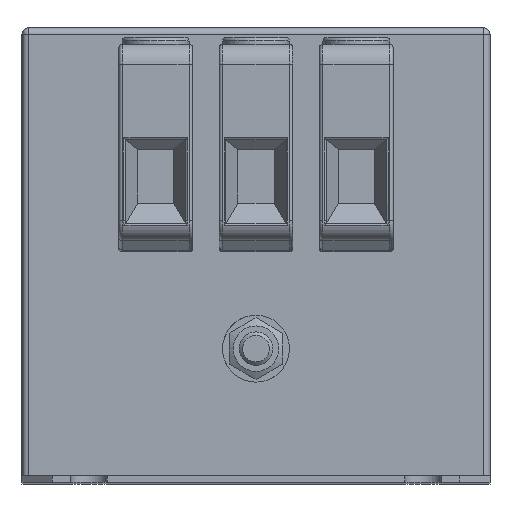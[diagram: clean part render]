
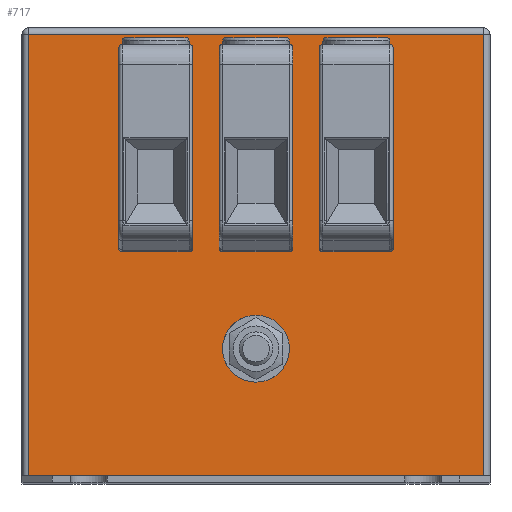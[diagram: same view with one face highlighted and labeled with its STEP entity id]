
A CAD part, top view. The second image highlights one B-rep face of the part: STEP entity #717.
In plain terms, the highlighted planar face has unit normal (0, 0, 1).
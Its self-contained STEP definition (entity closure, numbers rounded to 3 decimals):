
#101=CARTESIAN_POINT('',(4.25,-14.0,65.0));
#102=VERTEX_POINT('',#101);
#103=CARTESIAN_POINT('',(0.,-14.0,65.0));
#104=DIRECTION('',(0.0,0.0,-1.0));
#105=DIRECTION('',(1.0,0.0,0.0));
#106=AXIS2_PLACEMENT_3D('',#103,#104,#105);
#107=CIRCLE('',#106,4.25);
#108=EDGE_CURVE('',#102,#102,#107,.T.);
#573=CARTESIAN_POINT('',(0.,0.,65.0));
#574=DIRECTION('',(0.0,0.0,1.0));
#575=DIRECTION('',(1.0,0.0,0.0));
#576=AXIS2_PLACEMENT_3D('',#573,#574,#575);
#577=PLANE('',#576);
#578=CARTESIAN_POINT('',(-34.,-33.,65.0));
#579=VERTEX_POINT('',#578);
#580=CARTESIAN_POINT('',(-34.,33.0,65.0));
#581=VERTEX_POINT('',#580);
#582=CARTESIAN_POINT('',(-34.,-33.,65.0));
#583=DIRECTION('',(0.0,1.0,0.0));
#584=VECTOR('',#583,66.0);
#585=LINE('',#582,#584);
#586=EDGE_CURVE('',#579,#581,#585,.T.);
#587=ORIENTED_EDGE('',*,*,#586,.F.);
#588=CARTESIAN_POINT('',(34.0,-33.,65.0));
#589=VERTEX_POINT('',#588);
#590=CARTESIAN_POINT('',(-34.,-33.,65.0));
#591=DIRECTION('',(1.0,0.0,0.0));
#592=VECTOR('',#591,68.);
#593=LINE('',#590,#592);
#594=EDGE_CURVE('',#579,#589,#593,.T.);
#595=ORIENTED_EDGE('',*,*,#594,.T.);
#596=CARTESIAN_POINT('',(34.,33.,65.0));
#597=VERTEX_POINT('',#596);
#598=CARTESIAN_POINT('',(34.0,33.,65.0));
#599=DIRECTION('',(0.0,-1.0,0.0));
#600=VECTOR('',#599,66.0);
#601=LINE('',#598,#600);
#602=EDGE_CURVE('',#597,#589,#601,.T.);
#603=ORIENTED_EDGE('',*,*,#602,.F.);
#604=CARTESIAN_POINT('',(-34.0,33.0,65.0));
#605=DIRECTION('',(1.0,0.0,0.0));
#606=VECTOR('',#605,68.0);
#607=LINE('',#604,#606);
#608=EDGE_CURVE('',#581,#597,#607,.T.);
#609=ORIENTED_EDGE('',*,*,#608,.F.);
#610=EDGE_LOOP('',(#587,#595,#603,#609));
#611=FACE_OUTER_BOUND('',#610,.T.);
#612=ORIENTED_EDGE('',*,*,#108,.T.);
#613=EDGE_LOOP('',(#612));
#614=FACE_BOUND('',#613,.T.);
#615=CARTESIAN_POINT('',(10.,1.,65.0));
#616=VERTEX_POINT('',#615);
#617=CARTESIAN_POINT('',(10.,31.,65.));
#618=VERTEX_POINT('',#617);
#619=CARTESIAN_POINT('',(10.,1.,65.0));
#620=DIRECTION('',(0.0,1.0,0.0));
#621=VECTOR('',#620,30.);
#622=LINE('',#619,#621);
#623=EDGE_CURVE('',#616,#618,#622,.T.);
#624=ORIENTED_EDGE('',*,*,#623,.T.);
#625=CARTESIAN_POINT('',(20.,31.,65.));
#626=VERTEX_POINT('',#625);
#627=CARTESIAN_POINT('',(10.,31.,65.0));
#628=DIRECTION('',(1.0,0.0,0.0));
#629=VECTOR('',#628,10.);
#630=LINE('',#627,#629);
#631=EDGE_CURVE('',#618,#626,#630,.T.);
#632=ORIENTED_EDGE('',*,*,#631,.T.);
#633=CARTESIAN_POINT('',(20.,1.,65.0));
#634=VERTEX_POINT('',#633);
#635=CARTESIAN_POINT('',(20.,31.,65.0));
#636=DIRECTION('',(0.0,-1.0,0.0));
#637=VECTOR('',#636,30.);
#638=LINE('',#635,#637);
#639=EDGE_CURVE('',#626,#634,#638,.T.);
#640=ORIENTED_EDGE('',*,*,#639,.T.);
#641=CARTESIAN_POINT('',(10.,1.,65.0));
#642=DIRECTION('',(1.0,0.0,0.0));
#643=VECTOR('',#642,10.);
#644=LINE('',#641,#643);
#645=EDGE_CURVE('',#616,#634,#644,.T.);
#646=ORIENTED_EDGE('',*,*,#645,.F.);
#647=EDGE_LOOP('',(#624,#632,#640,#646));
#648=FACE_BOUND('',#647,.T.);
#649=CARTESIAN_POINT('',(-5.,1.,65.));
#650=VERTEX_POINT('',#649);
#651=CARTESIAN_POINT('',(-5.,31.,65.));
#652=VERTEX_POINT('',#651);
#653=CARTESIAN_POINT('',(-5.,1.,65.0));
#654=DIRECTION('',(0.0,1.0,0.0));
#655=VECTOR('',#654,30.);
#656=LINE('',#653,#655);
#657=EDGE_CURVE('',#650,#652,#656,.T.);
#658=ORIENTED_EDGE('',*,*,#657,.T.);
#659=CARTESIAN_POINT('',(5.,31.,65.));
#660=VERTEX_POINT('',#659);
#661=CARTESIAN_POINT('',(-5.,31.,65.0));
#662=DIRECTION('',(1.0,0.0,0.0));
#663=VECTOR('',#662,10.0);
#664=LINE('',#661,#663);
#665=EDGE_CURVE('',#652,#660,#664,.T.);
#666=ORIENTED_EDGE('',*,*,#665,.T.);
#667=CARTESIAN_POINT('',(5.,1.,65.));
#668=VERTEX_POINT('',#667);
#669=CARTESIAN_POINT('',(5.,31.,65.0));
#670=DIRECTION('',(0.0,-1.0,0.0));
#671=VECTOR('',#670,30.);
#672=LINE('',#669,#671);
#673=EDGE_CURVE('',#660,#668,#672,.T.);
#674=ORIENTED_EDGE('',*,*,#673,.T.);
#675=CARTESIAN_POINT('',(-5.,1.,65.0));
#676=DIRECTION('',(1.0,0.0,0.0));
#677=VECTOR('',#676,10.0);
#678=LINE('',#675,#677);
#679=EDGE_CURVE('',#650,#668,#678,.T.);
#680=ORIENTED_EDGE('',*,*,#679,.F.);
#681=EDGE_LOOP('',(#658,#666,#674,#680));
#682=FACE_BOUND('',#681,.T.);
#683=CARTESIAN_POINT('',(-20.,1.,65.));
#684=VERTEX_POINT('',#683);
#685=CARTESIAN_POINT('',(-20.,31.,65.));
#686=VERTEX_POINT('',#685);
#687=CARTESIAN_POINT('',(-20.,1.,65.0));
#688=DIRECTION('',(0.0,1.0,0.0));
#689=VECTOR('',#688,30.);
#690=LINE('',#687,#689);
#691=EDGE_CURVE('',#684,#686,#690,.T.);
#692=ORIENTED_EDGE('',*,*,#691,.T.);
#693=CARTESIAN_POINT('',(-10.,31.,65.));
#694=VERTEX_POINT('',#693);
#695=CARTESIAN_POINT('',(-20.,31.,65.0));
#696=DIRECTION('',(1.0,0.0,0.0));
#697=VECTOR('',#696,10.0);
#698=LINE('',#695,#697);
#699=EDGE_CURVE('',#686,#694,#698,.T.);
#700=ORIENTED_EDGE('',*,*,#699,.T.);
#701=CARTESIAN_POINT('',(-10.,1.,65.));
#702=VERTEX_POINT('',#701);
#703=CARTESIAN_POINT('',(-10.,31.,65.0));
#704=DIRECTION('',(0.0,-1.0,0.0));
#705=VECTOR('',#704,30.);
#706=LINE('',#703,#705);
#707=EDGE_CURVE('',#694,#702,#706,.T.);
#708=ORIENTED_EDGE('',*,*,#707,.T.);
#709=CARTESIAN_POINT('',(-20.,1.,65.0));
#710=DIRECTION('',(1.0,0.0,0.0));
#711=VECTOR('',#710,10.);
#712=LINE('',#709,#711);
#713=EDGE_CURVE('',#684,#702,#712,.T.);
#714=ORIENTED_EDGE('',*,*,#713,.F.);
#715=EDGE_LOOP('',(#692,#700,#708,#714));
#716=FACE_BOUND('',#715,.T.);
#717=ADVANCED_FACE('',(#611,#614,#648,#682,#716),#577,.T.);
